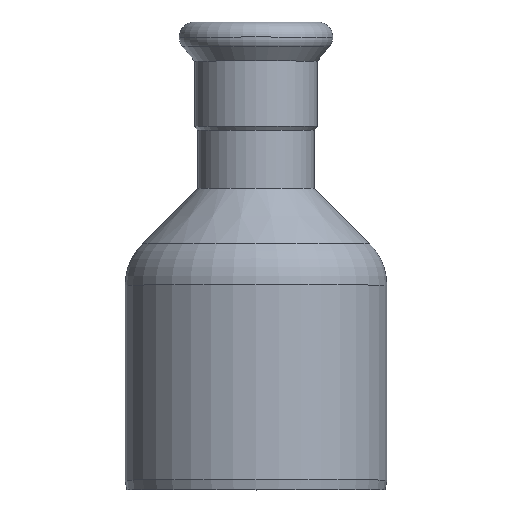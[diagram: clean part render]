
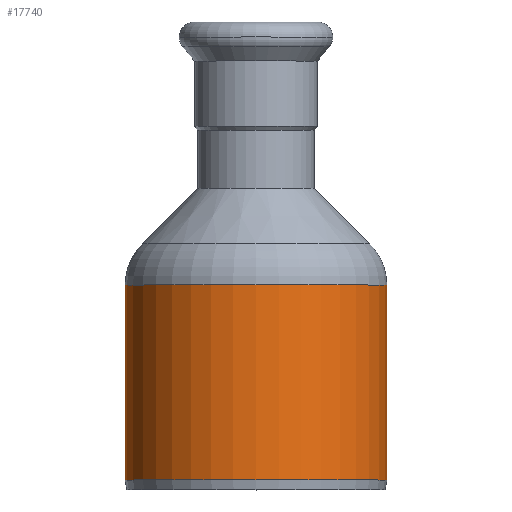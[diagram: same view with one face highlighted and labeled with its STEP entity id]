
A CAD part, top view. The second image highlights one B-rep face of the part: STEP entity #17740.
In plain terms, the highlighted cylindrical face has radius 27 mm (diameter 54 mm), a partial arc.
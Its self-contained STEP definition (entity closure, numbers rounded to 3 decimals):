
#1930=CARTESIAN_POINT('',(-202.976,33.421,0.));
#1940=DIRECTION('',(0.,-1.,0.));
#1950=DIRECTION('',(1.,0.,0.));
#1960=AXIS2_PLACEMENT_3D('',#1930,#1940,#1950);
#1970=CYLINDRICAL_SURFACE('',#1960,27.);
#1980=CARTESIAN_POINT('',(-175.976,33.421,0.));
#1990=DIRECTION('',(0.,-1.,0.));
#2000=VECTOR('',#1990,1.);
#2010=LINE('',#1980,#2000);
#2020=CARTESIAN_POINT('',(-175.976,8.95,0.));
#2030=VERTEX_POINT('',#2020);
#2040=CARTESIAN_POINT('',(-175.976,-31.279,0.));
#2050=VERTEX_POINT('',#2040);
#2060=EDGE_CURVE('',#2030,#2050,#2010,.T.);
#2080=CARTESIAN_POINT('',(-202.976,8.95,0.));
#2090=DIRECTION('',(0.,-1.,0.));
#2100=DIRECTION('',(-1.,0.,0.));
#2110=AXIS2_PLACEMENT_3D('',#2080,#2090,#2100);
#2120=CIRCLE('',#2110,27.);
#2130=CARTESIAN_POINT('',(-229.976,8.95,0.));
#2140=VERTEX_POINT('',#2130);
#2170=CARTESIAN_POINT('',(-229.976,33.421,
0.));
#2180=DIRECTION('',(0.,-1.,0.));
#2190=VECTOR('',#2180,1.);
#2200=LINE('',#2170,#2190);
#2210=CARTESIAN_POINT('',(-229.976,-31.279,
0.));
#2220=VERTEX_POINT('',#2210);
#2230=EDGE_CURVE('',#2140,#2220,#2200,.T.);
#2250=CARTESIAN_POINT('',(-202.976,-31.279,0.));
#2260=DIRECTION('',(0.,-1.,0.));
#2270=DIRECTION('',(-1.,0.,0.));
#2280=AXIS2_PLACEMENT_3D('',#2250,#2260,#2270);
#2290=CIRCLE('',#2280,27.);
#16440=EDGE_CURVE('',#2030,#2140,#2120,.T.);
#17670=ORIENTED_EDGE('',*,*,#2060,.F.);
#17680=EDGE_CURVE('',#2050,#2220,#2290,.T.);
#17690=ORIENTED_EDGE('',*,*,#17680,.F.);
#17700=ORIENTED_EDGE('',*,*,#2230,.T.);
#17710=ORIENTED_EDGE('',*,*,#16440,.T.);
#17720=EDGE_LOOP('',(#17710,#17700,#17690,#17670));
#17730=FACE_OUTER_BOUND('',#17720,.T.);
#17740=ADVANCED_FACE('',(#17730),#1970,.T.);
